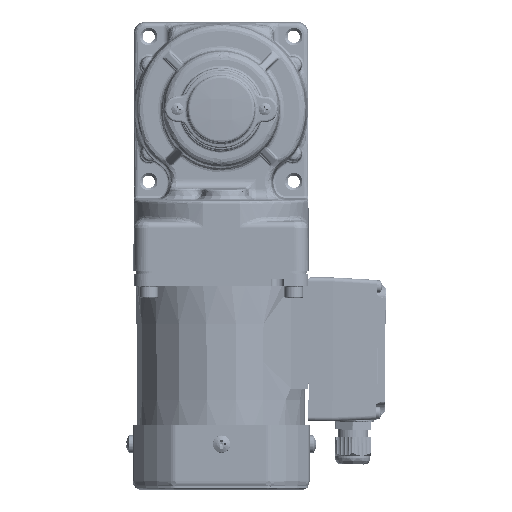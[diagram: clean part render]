
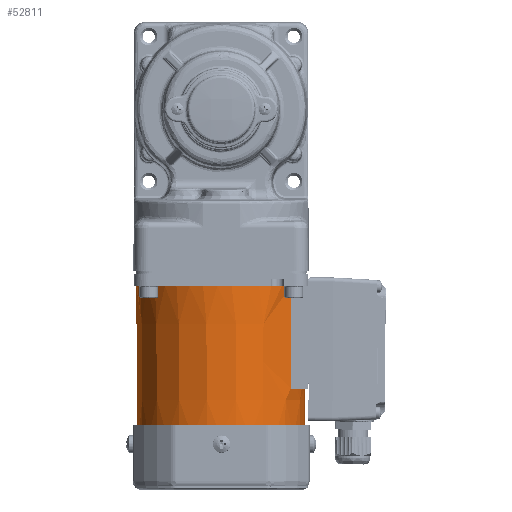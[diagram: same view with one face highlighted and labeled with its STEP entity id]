
A CAD part, left-side view. The second image highlights one B-rep face of the part: STEP entity #52811.
In plain terms, the highlighted conical face has half-angle 0.47 degrees and reference radius 38.947 mm.
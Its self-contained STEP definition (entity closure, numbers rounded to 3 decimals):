
#1695 = EDGE_LOOP ( 'NONE', ( #51140, #4065, #23314, #7757, #89267, #100190 ) ) ;
#1771 = CIRCLE ( 'NONE', #83232, 38.377 ) ;
#3311 = DIRECTION ( 'NONE',  ( 0., 1., 0. ) ) ;
#4065 = ORIENTED_EDGE ( 'NONE', *, *, #92645, .T. ) ;
#5621 = EDGE_CURVE ( 'NONE', #79559, #23682, #1771, .T. ) ;
#7757 = ORIENTED_EDGE ( 'NONE', *, *, #20823, .T. ) ;
#7984 = VECTOR ( 'NONE', #52227, 1000. ) ;
#11783 = CARTESIAN_POINT ( 'NONE',  ( 0., 0., 38.947 ) ) ;
#11990 = VERTEX_POINT ( 'NONE', #13908 ) ;
#13908 = CARTESIAN_POINT ( 'NONE',  ( 21.59, 47., 31.951 ) ) ;
#14499 = VECTOR ( 'NONE', #59490, 1000. ) ;
#18198 = CARTESIAN_POINT ( 'NONE',  ( 0., 69.5, -38.377 ) ) ;
#18358 = VERTEX_POINT ( 'NONE', #29017 ) ;
#20326 = DIRECTION ( 'NONE',  ( 0., -1., 0. ) ) ;
#20823 = EDGE_CURVE ( 'NONE', #11990, #18358, #69323, .T. ) ;
#23314 = ORIENTED_EDGE ( 'NONE', *, *, #47373, .T. ) ;
#23682 = VERTEX_POINT ( 'NONE', #48494 ) ;
#26788 = VERTEX_POINT ( 'NONE', #43758 ) ;
#29017 = CARTESIAN_POINT ( 'NONE',  ( 22., 0., 32.138 ) ) ;
#29186 = CARTESIAN_POINT ( 'NONE',  ( 22., 0., 32.138 ) ) ;
#29220 = CARTESIAN_POINT ( 'NONE',  ( 21.863, 15.712, 32.076 ) ) ;
#29654 = CARTESIAN_POINT ( 'NONE',  ( 21.726, 31.379, 32.013 ) ) ;
#30004 = CARTESIAN_POINT ( 'NONE',  ( 21.59, 47., 31.951 ) ) ;
#33062 = AXIS2_PLACEMENT_3D ( 'NONE', #35952, #91987, #44166 ) ;
#35196 = EDGE_CURVE ( 'NONE', #18358, #83366, #35231, .T. ) ;
#35231 = CIRCLE ( 'NONE', #33062, 38.947 ) ;
#35839 = CARTESIAN_POINT ( 'NONE',  ( 0., 69.5, 0. ) ) ;
#35952 = CARTESIAN_POINT ( 'NONE',  ( 0., 0., 0. ) ) ;
#36203 = DIRECTION ( 'NONE',  ( 0., -1., 0. ) ) ;
#36549 = DIRECTION ( 'NONE',  ( 0., 0., -1. ) ) ;
#43758 = CARTESIAN_POINT ( 'NONE',  ( 0., 47., 38.561 ) ) ;
#44166 = DIRECTION ( 'NONE',  ( 0., 0., -1. ) ) ;
#47373 = EDGE_CURVE ( 'NONE', #26788, #11990, #96746, .T. ) ;
#48494 = CARTESIAN_POINT ( 'NONE',  ( 0., 69.5, 38.377 ) ) ;
#51140 = ORIENTED_EDGE ( 'NONE', *, *, #5621, .T. ) ;
#51830 = CARTESIAN_POINT ( 'NONE',  ( 0., 47., 0. ) ) ;
#52227 = DIRECTION ( 'NONE',  ( 0., -1., 0.008 ) ) ;
#52356 = CARTESIAN_POINT ( 'NONE',  ( 0., 0., -38.947 ) ) ;
#52601 = DIRECTION ( 'NONE',  ( 0., 0., -1. ) ) ;
#52781 = FACE_OUTER_BOUND ( 'NONE', #1695, .T. ) ;
#52811 = ADVANCED_FACE ( 'NONE', ( #52781 ), #71551, .T. ) ;
#59490 = DIRECTION ( 'NONE',  ( 0., -1., -0.008 ) ) ;
#59915 = DIRECTION ( 'NONE',  ( 0., 0., -1. ) ) ;
#62535 = AXIS2_PLACEMENT_3D ( 'NONE', #84367, #20326, #52601 ) ;
#63845 = LINE ( 'NONE', #67131, #14499 ) ;
#64184 = AXIS2_PLACEMENT_3D ( 'NONE', #51830, #3311, #59915 ) ;
#66999 = EDGE_CURVE ( 'NONE', #79559, #83366, #63845, .T. ) ;
#67131 = CARTESIAN_POINT ( 'NONE',  ( 0., 0., -38.947 ) ) ;
#69323 =( BOUNDED_CURVE ( )  B_SPLINE_CURVE ( 3, ( #30004, #29654, #29220, #29186 ),
 .UNSPECIFIED., .F., .F. ) 
 B_SPLINE_CURVE_WITH_KNOTS ( ( 4, 4 ),
 ( 3.781, 3.785 ),
 .UNSPECIFIED. ) 
 CURVE ( )  GEOMETRIC_REPRESENTATION_ITEM ( )  RATIONAL_B_SPLINE_CURVE ( ( 1., 1., 1., 1. ) ) 
 REPRESENTATION_ITEM ( '' )  );
#71551 = CONICAL_SURFACE ( 'NONE', #62535, 38.947, 0.008 ) ;
#79559 = VERTEX_POINT ( 'NONE', #18198 ) ;
#83232 = AXIS2_PLACEMENT_3D ( 'NONE', #35839, #36203, #36549 ) ;
#83366 = VERTEX_POINT ( 'NONE', #52356 ) ;
#84367 = CARTESIAN_POINT ( 'NONE',  ( 0., 0., 0. ) ) ;
#89267 = ORIENTED_EDGE ( 'NONE', *, *, #35196, .T. ) ;
#91987 = DIRECTION ( 'NONE',  ( 0., 1., 0. ) ) ;
#92645 = EDGE_CURVE ( 'NONE', #23682, #26788, #95899, .T. ) ;
#95899 = LINE ( 'NONE', #11783, #7984 ) ;
#96746 = CIRCLE ( 'NONE', #64184, 38.561 ) ;
#100190 = ORIENTED_EDGE ( 'NONE', *, *, #66999, .F. ) ;
